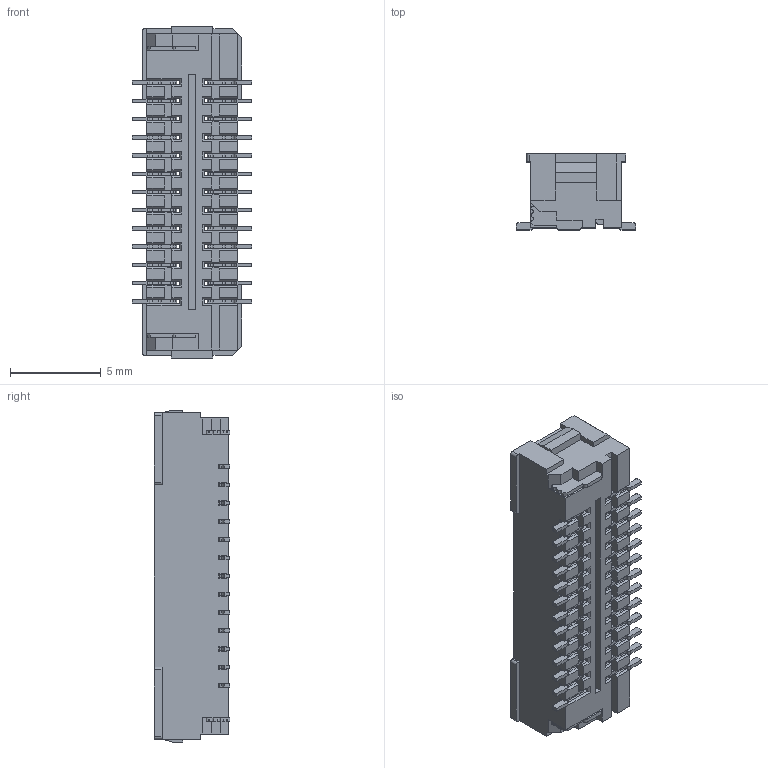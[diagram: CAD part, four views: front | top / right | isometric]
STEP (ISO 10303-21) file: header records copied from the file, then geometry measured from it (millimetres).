
FILE_DESCRIPTION(/* description */ (''),/* implementation_level */ '2;1');
FILE_NAME(/* name */ 'HC-SH25-2x13PLT-05 (1.00 双排 带扣 立贴-HCTL).stp',/* time_stamp */ '2026-10-21T09:50:30+08:00',/* author */ (''),/* organization */ (''),/* preprocessor_version */ 'ST-DEVELOPER v16',/* originating_system */ 'SIEMENS PLM Software NX 10.0',/* authorisation */ '');
FILE_SCHEMA (('AUTOMOTIVE_DESIGN { 1 0 10303 214 3 1 1 1 }'));
Products named in the file (1): HC-SH25-2x10PLT-05 (1.00  双排 带扣 
立贴-HCTL)
Bounding box: 6.6 x 4.17 x 18.29 mm (x, y, z)
Volume: 219.7 mm3; surface area: 1130.4 mm2
Topology: 1 solids, 3 shells, 2205 faces, 6817 edges, 4492 vertices
Faces by surface type: plane 1632, cylinder 573
Entity records: 75663 total; most frequent: CARTESIAN_POINT 13683, ORIENTED_EDGE 13634, DIRECTION 12321, EDGE_CURVE 6817, LINE 5613, VECTOR 5613, VERTEX_POINT 4492, AXIS2_PLACEMENT_3D 3354
